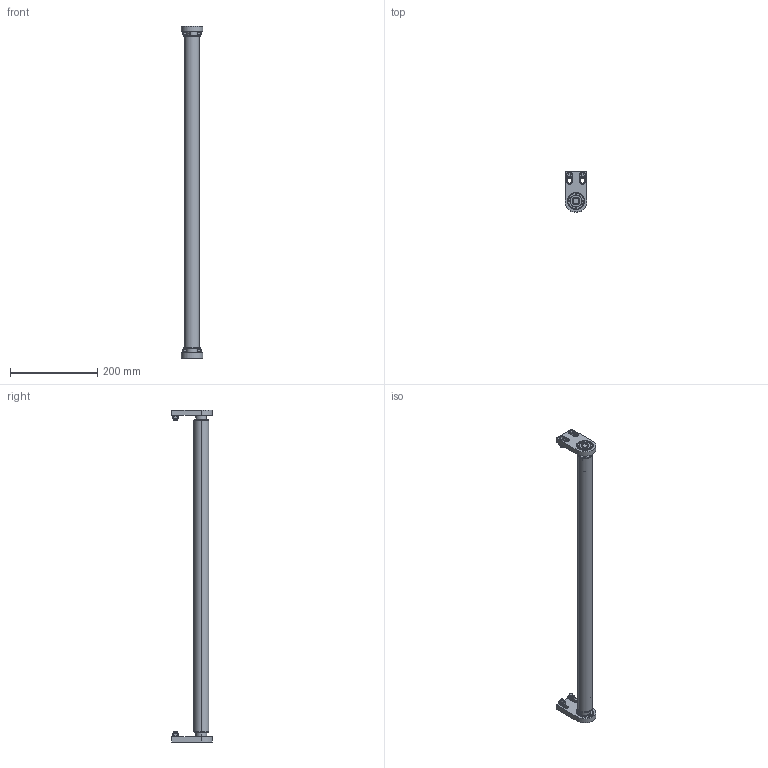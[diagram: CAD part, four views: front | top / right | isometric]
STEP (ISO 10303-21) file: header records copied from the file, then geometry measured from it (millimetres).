
FILE_DESCRIPTION (( 'STEP AP203' ), '1' );
FILE_NAME ('084.095.KSS.700.STEP', '2019-07-30T08:40:24', ( '' ), ( '' ), 'SwSTEP 2.0', 'SolidWorks 2018', '' );
FILE_SCHEMA (( 'CONFIG_CONTROL_DESIGN' ));
Length unit declared in the file: millimetre
Products named in the file (8): 084.301.000 VITI ALUSIC_084.301.003; 084.802.014; 084.802.029-709; 084.802.028; 084.302.000 DADI ALUSIC 13x13-1_084.302.004; 084.095.KSS.700; 084.802.017_084.802.017; 084.802.013-2
Assembly tree (17 placements, depth 2):
  084.095.KSS.700
    084.802.029-709
    084.301.000 VITI ALUSIC_084.301.003  x4
    084.302.000 DADI ALUSIC 13x13-1_084.302.004  x4
    084.802.017_084.802.017  x2
    084.802.028  x2
    084.802.014  x2
    084.802.013-2  x2
Bounding box: 50 x 92.5 x 759 mm (x, y, z)
Volume: 302846.3 mm3; surface area: 214901.2 mm2
Topology: 19 solids, 21 shells, 384 faces, 910 edges, 582 vertices
Faces by surface type: plane 142, cylinder 134, torus 52, cone 32, bspline 16, sphere 8
Entity records: 5980 total; most frequent: CARTESIAN_POINT 1263, DIRECTION 820, ORIENTED_EDGE 700, EDGE_CURVE 350, AXIS2_PLACEMENT_3D 339, VERTEX_POINT 224, EDGE_LOOP 182, CIRCLE 170
